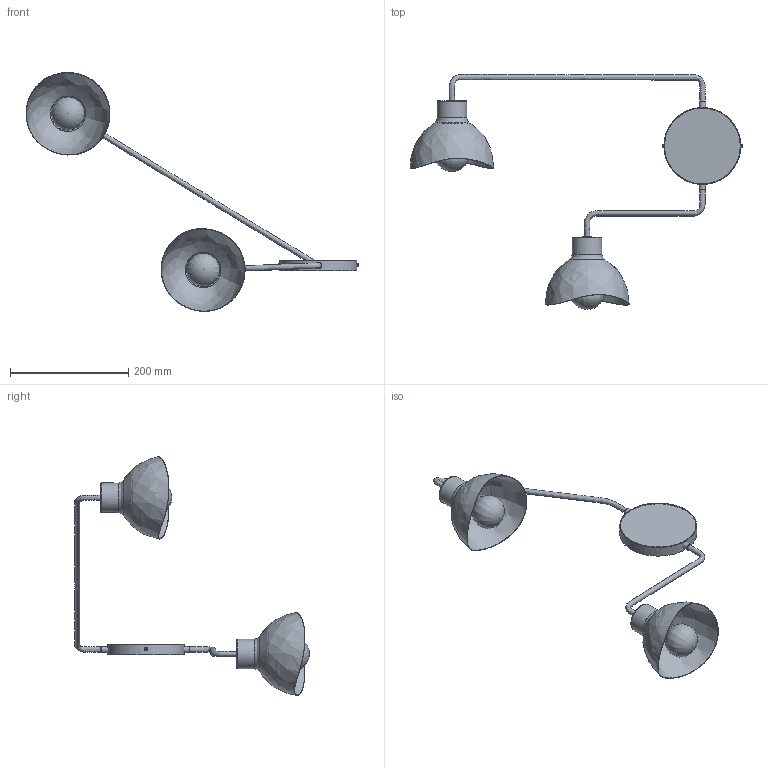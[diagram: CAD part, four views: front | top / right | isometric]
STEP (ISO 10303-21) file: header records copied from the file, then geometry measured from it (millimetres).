
FILE_DESCRIPTION ((), '1');
FILE_NAME ('F:\_Liczy się słowo\_Modelowanie SIGMA\Holi kinkiet\Holi podwójny\model\gotowe\Holi podwójny.stp', '2024-12-05T22:04:12', ('Unknown'), ('Unknown'), 'HarmonyWare STEP v2.1.4', 'HarmonyWare Translators', '');
FILE_SCHEMA (('CONFIG_CONTROL_DESIGN'));
Length unit declared in the file: centimetre
Products named in the file (38): Żarówka; ramię długie; podsufitka; ramię krótkie; klosz; wnętrze klosza
Assembly tree (37 placements, depth 2):
  (unnamed)
    Żarówka
    Żarówka
    Żarówka
    Żarówka
    Żarówka
    Żarówka
    Żarówka
    Żarówka
    Żarówka
    Żarówka
    ramię długie
    podsufitka
    Żarówka
    Żarówka
    ramię krótkie
    podsufitka
    Żarówka
    Żarówka
    Żarówka
    Żarówka
    podsufitka
    Żarówka
    Żarówka
    Żarówka
    Żarówka
    Żarówka
    Żarówka
    Żarówka
    Żarówka
    Żarówka
    Żarówka
    Żarówka
    Żarówka
    klosz
    wnętrze klosza
    klosz
    wnętrze klosza
Bounding box: 561.19 x 396.91 x 403.66 mm (x, y, z)
Volume: 511216.3 mm3; surface area: 239258.5 mm2
Topology: 33 solids, 37 shells, 365 faces, 780 edges, 470 vertices
Faces by surface type: bspline 365
Entity records: 36852 total; most frequent: CARTESIAN_POINT 27157, ORIENTED_EDGE 1504, EDGE_CURVE 754, VERTEX_POINT 470, B_SPLINE_CURVE_WITH_KNOTS 412, PERSON 378, ORGANIZATION 378, PERSON_AND_ORGANIZATION 378
